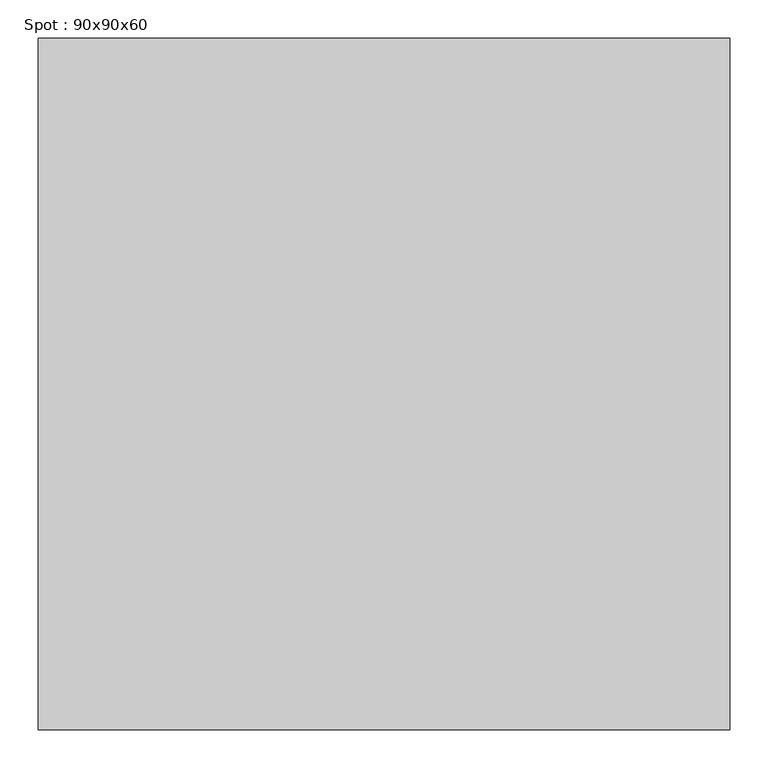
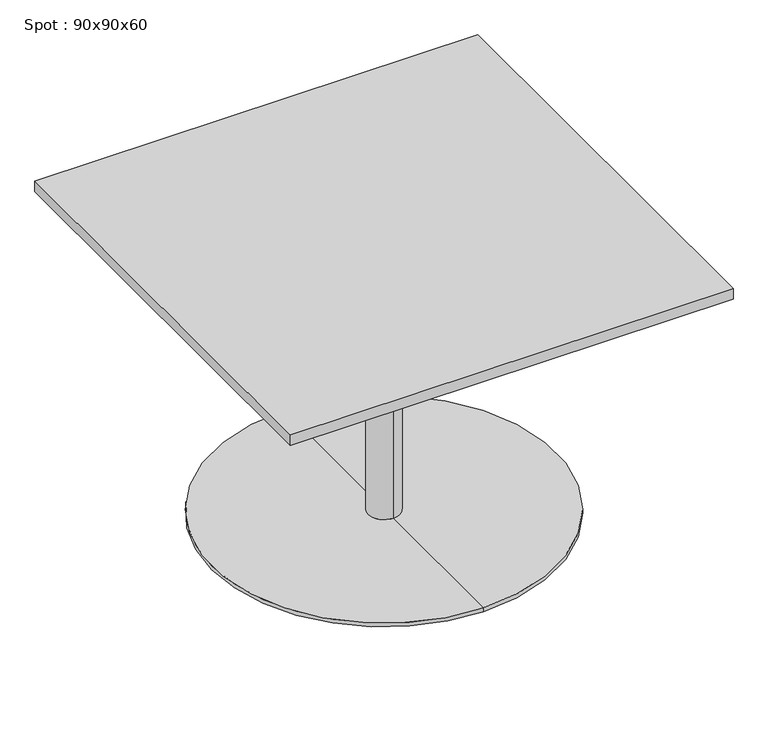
"""IFC4 building model written with IfcOpenShell, lengths in millimetres: furniture geometry, Spot : 90x90x60."""

from ifc_helpers import new_model, si_unit, frame, origin, place, context, project, spatial, polyline, circle_curve, outline, extrude, source, transform, mapped, element, save
from ifc_brep_helpers import plane_surface, cylinder_surface, revolved_surface, advanced_brep


def spot_90x90x60_5f5d6312(model_context):
    return source(origin(), model_context, "Body", "SolidModel", [
        extrude(outline(polyline([(450.0, 450.0), (450.0, -450.0), (-450.0, -450.0), (-450.0, 450.0), (450.0, 450.0)])), frame((0.0, 0.0, 578.0), z_axis=(0.0, 0.0, 1.0), x_axis=(1.0, 0.0, 0.0)), (0.0, 0.0, 1.0), 22.0),
        advanced_brep(
        [(0.0, 32.0, 10.0), (0.0, -32.0, 10.0), (0.0, -32.0, 547.406916), (0.0, 32.0, 547.406916), (0.0, 350.0, 10.0), (0.0, -350.0, 10.0), (0.0, 350.0, 2.0), (0.0, -350.0, 2.0), (0.0, 0.0, 2.0), (0.0, 150.0, 578.0), (0.0, -150.0, 578.0), (0.0, 0.0, 578.0), (0.0, 150.0, 566.7213673), (0.0, -150.0, 566.7213673)],
        [
            (0, 1, circle_curve(frame((0.0, 0.0, 10.0), z_axis=(0.0, 0.0, 1.0), x_axis=(0.0, -1.0, 0.0)), 32.0)),
            (1, 2),
            (2, 3, circle_curve(frame((0.0, 0.0, 547.406916), z_axis=(0.0, 0.0, -1.0), x_axis=(0.0, -1.0, 0.0)), 32.0)),
            (3, 0),
            (1, 0, circle_curve(frame((0.0, 0.0, 10.0), z_axis=(0.0, 0.0, 1.0), x_axis=(0.0, -1.0, 0.0)), 32.0)),
            (3, 2, circle_curve(frame((0.0, 0.0, 547.406916), z_axis=(0.0, 0.0, -1.0), x_axis=(0.0, -1.0, 0.0)), 32.0)),
            (4, 5, circle_curve(frame((0.0, 0.0, 10.0), z_axis=(0.0, 0.0, 1.0), x_axis=(0.0, -1.0, 0.0)), 350.0)),
            (5, 1),
            (0, 4),
            (5, 4, circle_curve(frame((0.0, 0.0, 10.0), z_axis=(0.0, 0.0, 1.0), x_axis=(0.0, -1.0, 0.0)), 350.0)),
            (6, 7, circle_curve(frame((0.0, 0.0, 2.0), z_axis=(0.0, 0.0, 1.0), x_axis=(0.0, -1.0, 0.0)), 350.0)),
            (7, 5),
            (4, 6),
            (7, 6, circle_curve(frame((0.0, 0.0, 2.0), z_axis=(0.0, 0.0, 1.0), x_axis=(0.0, -1.0, 0.0)), 350.0)),
            (8, 7),
            (6, 8),
            (9, 10, circle_curve(frame((0.0, 0.0, 578.0), z_axis=(0.0, 0.0, 1.0), x_axis=(0.0, -1.0, 0.0)), 150.0)),
            (10, 11),
            (11, 9),
            (10, 9, circle_curve(frame((0.0, 0.0, 578.0), z_axis=(0.0, 0.0, 1.0), x_axis=(0.0, -1.0, 0.0)), 150.0)),
            (12, 13, circle_curve(frame((0.0, 0.0, 566.7213673), z_axis=(0.0, 0.0, 1.0), x_axis=(0.0, -1.0, 0.0)), 150.0)),
            (13, 10),
            (9, 12),
            (13, 12, circle_curve(frame((0.0, 0.0, 566.7213673), z_axis=(0.0, 0.0, 1.0), x_axis=(0.0, -1.0, 0.0)), 150.0)),
            (2, 13),
            (12, 3),
        ],
        [
            cylinder_surface(frame((0.0, 0.0, 940.0), z_axis=(0.0, 0.0, -1.0), x_axis=(0.0, -1.0, 0.0)), 32.0),
            plane_surface(frame((0.0, 0.0, 10.0), z_axis=(0.0, 0.0, 1.0), x_axis=(0.0, -1.0, 0.0))),
            cylinder_surface(frame((0.0, 0.0, 940.0), z_axis=(0.0, 0.0, -1.0), x_axis=(0.0, -1.0, 0.0)), 350.0),
            plane_surface(frame((0.0, 0.0, 2.0), z_axis=(0.0, 0.0, -1.0), x_axis=(0.0, -1.0, 0.0))),
            plane_surface(frame((0.0, 0.0, 578.0), z_axis=(0.0, 0.0, 1.0), x_axis=(0.0, -1.0, 0.0))),
            cylinder_surface(frame((0.0, 0.0, 940.0), z_axis=(0.0, 0.0, -1.0), x_axis=(0.0, -1.0, 0.0)), 150.0),
            revolved_surface(polyline([(0.0, -150.0, 566.7213673), (0.0, -32.0, 547.406916)]), (0.0, 0.0, 940.0), (0.0, 0.0, -1.0)),
        ],
        [
            (0, [[1, 2, 3, 4]]),
            (0, [[5, -4, 6, -2]]),
            (1, [[7, 8, -1, 9]]),
            (1, [[10, -9, -5, -8]]),
            (2, [[11, 12, -7, 13]]),
            (2, [[14, -13, -10, -12]]),
            (3, [[15, -11, 16]]),
            (3, [[-16, -14, -15]]),
            (4, [[17, 18, 19]]),
            (4, [[20, -19, -18]]),
            (5, [[21, 22, -17, 23]]),
            (5, [[24, -23, -20, -22]]),
            (6, [[-3, 25, -21, 26]]),
            (6, [[-6, -26, -24, -25]]),
        ],
    ),
    ])


if __name__ == "__main__":
    model = new_model("IFC4")
    model_context = context("Model", 3, world=origin())
    ifc_project = project(units=[si_unit("LENGTHUNIT", "METRE", prefix="MILLI")], contexts=[model_context])
    site = spatial("IfcSite", under=ifc_project)
    building = spatial("IfcBuilding", under=site)
    placement = place(None, origin())
    spot_90x90x60_shape = spot_90x90x60_5f5d6312(model_context)
    element("IfcFurniture", 1, ObjectType="Spot : 90x90x60", at=placement, inside=building, context=model_context, shape_type="MappedRepresentation", body=[
        mapped(spot_90x90x60_shape, transform((0.0, 0.0, 0.0), x_axis=(1.0, 0.0, 0.0), y_axis=(0.0, 1.0, 0.0), z_axis=(0.0, 0.0, 1.0))),
    ])
    save(model, "model.ifc")
